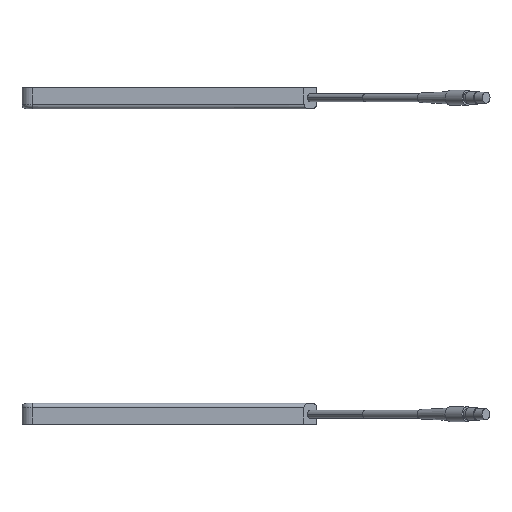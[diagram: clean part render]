
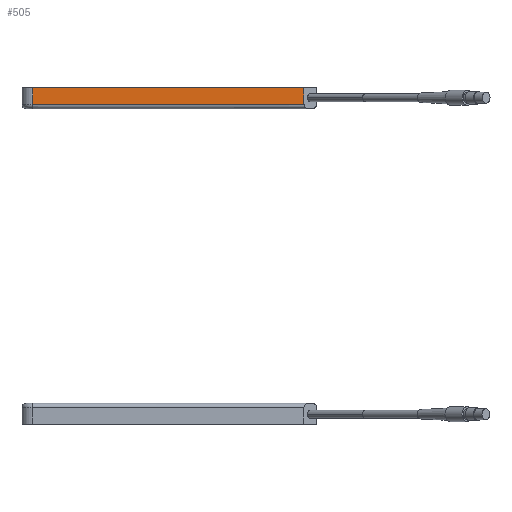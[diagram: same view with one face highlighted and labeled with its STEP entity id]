
A CAD part, left-side view. The second image highlights one B-rep face of the part: STEP entity #505.
In plain terms, the highlighted planar face has unit normal (-1, 0, 0) as drawn and (1, 0, 0) by its records, which use the part's own axes.
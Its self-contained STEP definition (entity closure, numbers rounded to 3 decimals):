
#424 = EDGE_CURVE ( 'NONE', #425, #426, #3426, .T. ) ;
#425 = VERTEX_POINT ( 'NONE', #3422 ) ;
#426 = VERTEX_POINT ( 'NONE', #3421 ) ;
#427 = ORIENTED_EDGE ( 'NONE', *, *, #428, .T. ) ;
#428 = EDGE_CURVE ( 'NONE', #426, #2621, #3420, .T. ) ;
#484 = ORIENTED_EDGE ( 'NONE', *, *, #2618, .F. ) ;
#485 = ORIENTED_EDGE ( 'NONE', *, *, #486, .T. ) ;
#486 = EDGE_CURVE ( 'NONE', #2619, #425, #3499, .T. ) ;
#505 = ADVANCED_FACE ( 'NONE', ( #3599 ), #3598, .T. ) ;
#506 = EDGE_LOOP ( 'NONE', ( #507, #427, #484, #485 ) ) ;
#507 = ORIENTED_EDGE ( 'NONE', *, *, #424, .T. ) ;
#2618 = EDGE_CURVE ( 'NONE', #2619, #2621, #6987, .T. ) ;
#2619 = VERTEX_POINT ( 'NONE', #6983 ) ;
#2621 = VERTEX_POINT ( 'NONE', #7029 ) ;
#3417 = DIRECTION ( 'NONE',  ( 0., -1., 0. ) ) ;
#3418 = VECTOR ( 'NONE', #3417, 1000. ) ;
#3419 = CARTESIAN_POINT ( 'NONE',  ( 15., 65., -2. ) ) ;
#3420 = LINE ( 'NONE', #3419, #3418 ) ;
#3421 = CARTESIAN_POINT ( 'NONE',  ( 15., 60., -2. ) ) ;
#3422 = CARTESIAN_POINT ( 'NONE',  ( 15., 60., -10. ) ) ;
#3423 = DIRECTION ( 'NONE',  ( 0., 0., 1. ) ) ;
#3424 = VECTOR ( 'NONE', #3423, 1000. ) ;
#3425 = CARTESIAN_POINT ( 'NONE',  ( 15., 60., -10. ) ) ;
#3426 = LINE ( 'NONE', #3425, #3424 ) ;
#3498 = CARTESIAN_POINT ( 'NONE',  ( 15., 65., -10. ) ) ;
#3499 = LINE ( 'NONE', #3498, #3567 ) ;
#3566 = DIRECTION ( 'NONE',  ( 0., 1., 0. ) ) ;
#3567 = VECTOR ( 'NONE', #3566, 1000. ) ;
#3594 = DIRECTION ( 'NONE',  ( 0., 1., 0. ) ) ;
#3595 = DIRECTION ( 'NONE',  ( 1., 0., 0. ) ) ;
#3596 = CARTESIAN_POINT ( 'NONE',  ( 15., 65., -10. ) ) ;
#3597 = AXIS2_PLACEMENT_3D ( 'NONE', #3596, #3595, #3594 ) ;
#3598 = PLANE ( 'NONE',  #3597 ) ;
#3599 = FACE_OUTER_BOUND ( 'NONE', #506, .T. ) ;
#6983 = CARTESIAN_POINT ( 'NONE',  ( 15., -69., -10. ) ) ;
#6984 = DIRECTION ( 'NONE',  ( 0., 0., 1. ) ) ;
#6985 = VECTOR ( 'NONE', #6984, 1000. ) ;
#6986 = CARTESIAN_POINT ( 'NONE',  ( 15., -69., -10. ) ) ;
#6987 = LINE ( 'NONE', #6986, #6985 ) ;
#7029 = CARTESIAN_POINT ( 'NONE',  ( 15., -69., -2. ) ) ;
